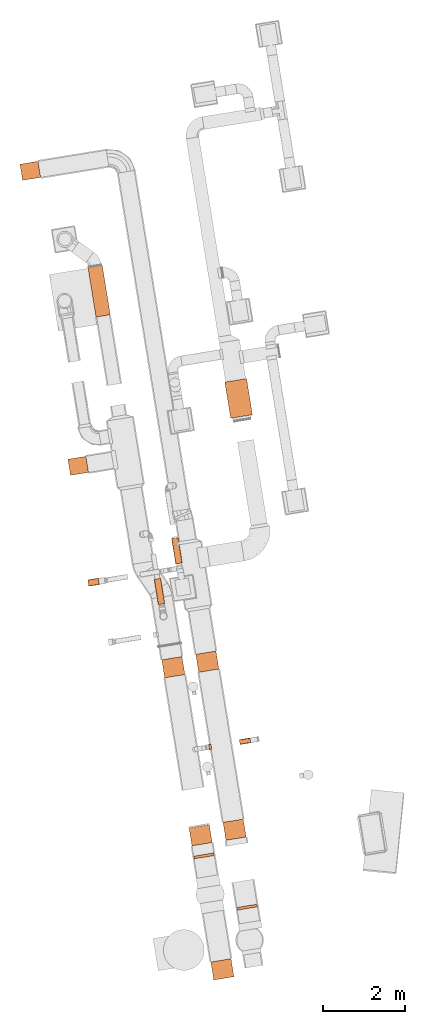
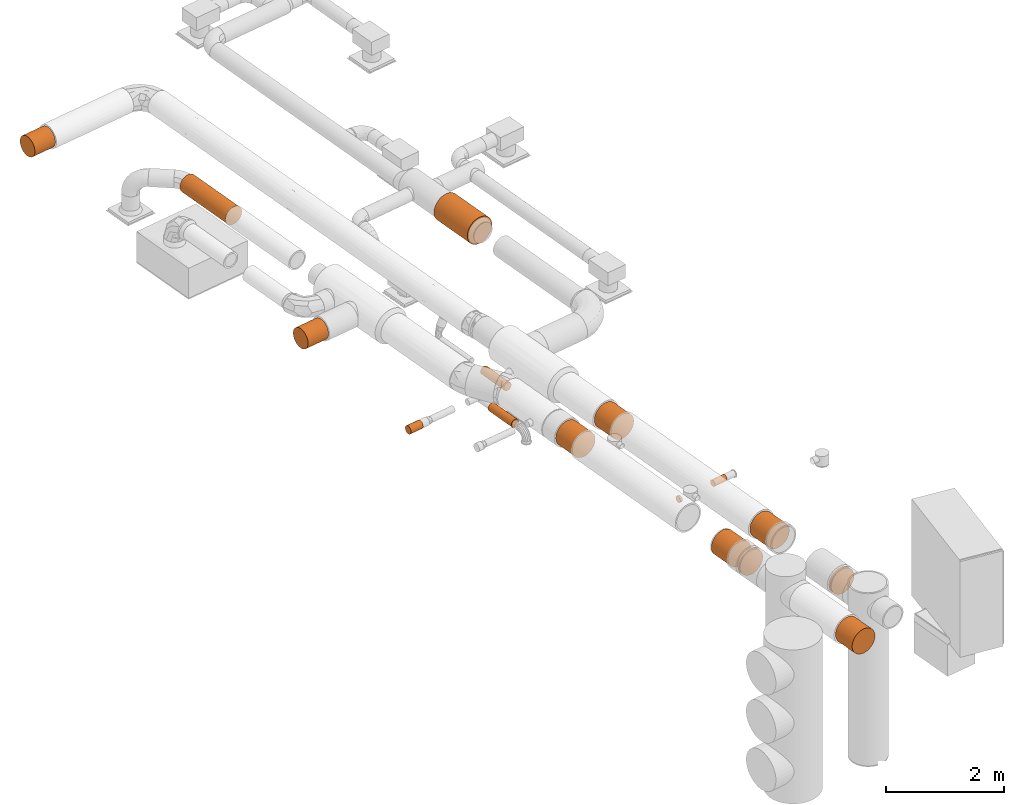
# One storey, part 39 of 39: 16 proxies.
"""IFC2X3 building model written with IfcOpenShell, lengths in millimetres."""

from ifc_helpers import new_model, entity, si_unit, converted_unit, derived_unit, direction, frame, frame_2d, origin, origin_with_axes, place, context, subcontext, project, spatial, circle, extrude, source, transform, mapped, material, type_object, element, save


model = new_model("IFC2X3")

# Units and contexts
plan_context = context("Plan", 3, precision=1e-05, world=origin_with_axes())
model_context = context("Model", 3, precision=0.01, world=origin(), true_north=direction((6.12323399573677e-17, 1.0)))
body_context = subcontext(model_context, "Body", "Model", "MODEL_VIEW")
ifc_project = project(units=[converted_unit("PLANEANGLEUNIT", "DEGREE", entity("IfcPositiveLengthMeasure", 0.0174532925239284), si_unit("PLANEANGLEUNIT", "RADIAN"), dimensions=[0, 0, 0, 0, 0, 0, 0]), si_unit("AREAUNIT", "SQUARE_METRE"), si_unit("LENGTHUNIT", "METRE", prefix="MILLI"), si_unit("MASSUNIT", "GRAM", prefix="KILO"), si_unit("POWERUNIT", "WATT"), si_unit("PRESSUREUNIT", "PASCAL", prefix="KILO"), si_unit("FORCEUNIT", "NEWTON", prefix="KILO"), si_unit("ELECTRICVOLTAGEUNIT", "VOLT"), si_unit("ELECTRICCURRENTUNIT", "AMPERE"), si_unit("THERMODYNAMICTEMPERATUREUNIT", "DEGREE_CELSIUS"), si_unit("TIMEUNIT", "SECOND"), si_unit("VOLUMEUNIT", "CUBIC_METRE"), derived_unit("LINEARVELOCITYUNIT", [(si_unit("LENGTHUNIT", "METRE"), 1), (si_unit("TIMEUNIT", "SECOND"), -1)]), derived_unit("VOLUMETRICFLOWRATEUNIT", [(si_unit("VOLUMEUNIT", "CUBIC_METRE"), 1), (si_unit("TIMEUNIT", "SECOND"), -1)]), derived_unit("THERMALTRANSMITTANCEUNIT", [(si_unit("POWERUNIT", "WATT"), 1), (si_unit("THERMODYNAMICTEMPERATUREUNIT", "KELVIN"), -1), (si_unit("AREAUNIT", "SQUARE_METRE"), -1)]), derived_unit("SOUNDPRESSUREUNIT", [(si_unit("PRESSUREUNIT", "PASCAL"), 1)])], contexts=[model_context, plan_context])

# Site, building, storey
site_placement = place(None, frame((-0.00071070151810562, 0.00438415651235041, 0.0), z_axis=(0.0, 0.0, 1.0), x_axis=(-0.160236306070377, 0.987078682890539, 0.0)))
site = spatial("IfcSite", under=ifc_project, at=site_placement, Name="Default", CompositionType="ELEMENT")
building_placement = place(site_placement, origin_with_axes())
building = spatial("IfcBuilding", under=site, at=building_placement, CompositionType="ELEMENT")
storey_placement = place(building_placement, frame((0.0, 0.0, 58999.9999999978), z_axis=(0.0, 0.0, 1.0), x_axis=(1.0, 0.0, 0.0)))
storey = spatial("IfcBuildingStorey", under=building, at=storey_placement, Name="Nivå F", CompositionType="ELEMENT", Elevation=58999.9999999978)

# Proxies
ifc_material = material(Name="<Unnamed>")
building_element_proxy_type_1 = type_object("IfcBuildingElementProxyType", Name="BRANNSPJELD -  - SZ011T:BRANNSPJELD -C-EI60-500 - SZ011T", PredefinedType="NOTDEFINED", material=ifc_material)
shared_shape_1 = source(origin(), body_context, "Body", "SweptSolid", [
    extrude(circle(Radius=250.0, at=frame_2d((1.51305301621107e-14, -4.03886143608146e-13), x_axis=(1.0, 0.0))), frame((-223.5, 0.0, 0.0), z_axis=(1.0, 0.0, 0.0), x_axis=(0.0, 1.0, 0.0)), (0.0, 0.0, 1.0), 447.0),
])
for number, where, z_axis, x_axis in (
    (1, (770765.869644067, -502496.834705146, 3130.0), (0.0, 0.0, 1.0), (-1.0, 0.0, 0.0)),
    (2, (770765.869644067, -503340.008615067, 3129.99954147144), (0.0, 0.0, 1.0), (-1.0, 0.0, 0.0)),
    (3, (763269.369644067, -502496.834705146, 3130.0), (0.0, 0.0, 1.0), (1.0, 0.0, 0.0)),
    (4, (766597.619644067, -502496.834705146, 3130.0), (0.0, 0.0, 1.0), (-1.0, 0.0, 0.0)),
    (5, (766597.619644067, -503340.008615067, 3129.99954147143), (0.0, 0.0, 1.0), (-1.0, 0.0, 0.0)),
):
    element("IfcBuildingElementProxy", number, at=place(storey_placement, frame(where, z_axis=z_axis, x_axis=x_axis)), inside=storey, type_object=building_element_proxy_type_1, material=ifc_material, Name="BRANNSPJELD -  - SZ011T:BRANNSPJELD -C-EI60-500 - SZ011T", ObjectType="BRANNSPJELD -  - SZ011T:BRANNSPJELD -C-EI60-500 - SZ011T", context=body_context, shape_type="MappedRepresentation", body=[
        mapped(shared_shape_1, transform((0.0, 0.0, 0.0), scale=1.0)),
    ])
building_element_proxy_type_2 = type_object("IfcBuildingElementProxyType", Name="INNREGULERINGSPJELD -  - SR001T:INNREGULERINGSPJELD - IRIS-050 - SR001T", PredefinedType="NOTDEFINED", material=ifc_material)
shared_shape_2 = source(origin(), body_context, "Body", "SweptSolid", [
    extrude(circle(Radius=250.0, at=frame_2d((1.47585647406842e-14, -1.18104226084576e-12), x_axis=(1.0, 0.0))), frame((-33.0, 0.0, 0.0), z_axis=(1.0, 0.0, 0.0), x_axis=(0.0, 0.0, -1.0)), (0.0, 0.0, 1.0), 65.9999999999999),
])
for number, where, z_axis, x_axis in (
    (6, (766085.090423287, -502496.834705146, 3130.0), (0.0, 0.0, 1.0), (-1.0, 0.0, 0.0)),
    (7, (764675.090423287, -503340.008615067, 3129.99954147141), (0.0, 0.0, 1.0), (-1.0, 0.0, 0.0)),
):
    element("IfcBuildingElementProxy", number, at=place(storey_placement, frame(where, z_axis=z_axis, x_axis=x_axis)), inside=storey, type_object=building_element_proxy_type_2, material=ifc_material, Name="INNREGULERINGSPJELD -  - SR001T:INNREGULERINGSPJELD - IRIS-050 - SR001T", ObjectType="INNREGULERINGSPJELD -  - SR001T:INNREGULERINGSPJELD - IRIS-050 - SR001T", context=body_context, shape_type="MappedRepresentation", body=[
        mapped(shared_shape_2, transform((0.0, 0.0, 0.0), scale=1.0)),
    ])
building_element_proxy_type_3 = type_object("IfcBuildingElementProxyType", Name="BRANNSPJELD -  - SZ011T:BRANNSPJELD -C-EI60-125 - SZ011T", PredefinedType="NOTDEFINED", material=ifc_material)
shared_shape_3 = source(origin(), body_context, "Body", "SweptSolid", [
    extrude(circle(Radius=62.4999999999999, at=frame_2d((3.44740902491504e-15, -1.00971535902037e-13), x_axis=(1.0, 0.0))), frame((-132.5, 0.0, 0.0), z_axis=(1.0, 0.0, 0.0), x_axis=(0.0, 1.0, 0.0)), (0.0, 0.0, 1.0), 265.0),
])
proxy_1_placement = place(storey_placement, frame((768695.275143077, -503939.729552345, 2750.0), z_axis=(0.0, 0.0, 1.0), x_axis=(0.0, 1.0, 0.0)))
element("IfcBuildingElementProxy", 8, at=proxy_1_placement, inside=storey, type_object=building_element_proxy_type_3, material=ifc_material, Name="BRANNSPJELD -  - SZ011T:BRANNSPJELD -C-EI60-125 - SZ011T", ObjectType="BRANNSPJELD -  - SZ011T:BRANNSPJELD -C-EI60-125 - SZ011T", context=body_context, shape_type="MappedRepresentation", body=[
    mapped(shared_shape_3, transform((0.0, 0.0, 0.0), scale=1.0)),
])
building_element_proxy_type_4 = type_object("IfcBuildingElementProxyType", Name="INNREGULERINGSPJELD -  - SR001T:INNREGULERINGSPJELD - IRIS-012 - SR001T", PredefinedType="NOTDEFINED", material=ifc_material)
shared_shape_4 = source(origin(), body_context, "Body", "SweptSolid", [
    extrude(circle(Radius=62.4999999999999, at=frame_2d((-3.04447824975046e-15, -2.81382777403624e-13), x_axis=(1.0, 0.0))), frame((-23.0, 0.0, 0.0), z_axis=(1.0, 0.0, 0.0), x_axis=(0.0, 0.0, -1.0)), (0.0, 0.0, 1.0), 46.0),
])
proxy_2_placement = place(storey_placement, frame((768695.275148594, -503073.30993598, 2750.0), z_axis=(0.0, 0.0, 1.0), x_axis=(0.0, 1.0, 0.0)))
element("IfcBuildingElementProxy", 9, at=proxy_2_placement, inside=storey, type_object=building_element_proxy_type_4, material=ifc_material, Name="INNREGULERINGSPJELD -  - SR001T:INNREGULERINGSPJELD - IRIS-012 - SR001T", ObjectType="INNREGULERINGSPJELD -  - SR001T:INNREGULERINGSPJELD - IRIS-012 - SR001T", context=body_context, shape_type="MappedRepresentation", body=[
    mapped(shared_shape_4, transform((0.0, 0.0, 0.0), scale=1.0)),
])
building_element_proxy_type_5 = type_object("IfcBuildingElementProxyType", Name="BRANNSPJELD -  - SZ011T:BRANNSPJELD -C-EI60-400 - SZ011T", PredefinedType="NOTDEFINED", material=ifc_material)
shared_shape_5 = source(origin(), body_context, "Body", "SweptSolid", [
    extrude(circle(Radius=200.0, at=frame_2d((1.51305301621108e-14, -3.23108914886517e-13), x_axis=(1.0, 0.0))), frame((-223.5, 0.0, 0.0), z_axis=(1.0, 0.0, 0.0), x_axis=(0.0, 1.0, 0.0)), (0.0, 0.0, 1.0), 447.0),
])
for number, where, z_axis, x_axis in (
    (10, (776007.222116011, -500987.136418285, 3130.0), (0.0, 0.0, 1.0), (0.0, -1.0, 0.0)),
    (11, (783327.222116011, -500987.209617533, 3130.0), (0.0, 0.0, 1.0), (0.0, -1.0, 0.0)),
):
    element("IfcBuildingElementProxy", number, at=place(storey_placement, frame(where, z_axis=z_axis, x_axis=x_axis)), inside=storey, type_object=building_element_proxy_type_5, material=ifc_material, Name="BRANNSPJELD -  - SZ011T:BRANNSPJELD -C-EI60-400 - SZ011T", ObjectType="BRANNSPJELD -  - SZ011T:BRANNSPJELD -C-EI60-400 - SZ011T", context=body_context, shape_type="MappedRepresentation", body=[
        mapped(shared_shape_5, transform((0.0, 0.0, 0.0), scale=1.0)),
    ])
building_element_proxy_type_6 = type_object("IfcBuildingElementProxyType", Name="LYDDEMPER -  - QL007T:LYDDEMPER - 315-1200 - QL007T", PredefinedType="NOTDEFINED", material=ifc_material)
shared_shape_6 = source(origin(), body_context, "Body", "SweptSolid", [
    extrude(circle(Radius=177.5, at=frame_2d((1.68751977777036e-14, -2.86759161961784e-13), x_axis=(1.0, 0.0))), frame((-613.0, 0.0, 0.0), z_axis=(1.0, 0.0, 0.0), x_axis=(0.0, 0.0, 1.0)), (0.0, 0.0, 1.0), 1226.0),
])
proxy_3_placement = place(storey_placement, frame((780147.343051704, -502178.834705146, 3130.03415297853), z_axis=(0.0, 0.0, 1.0), x_axis=(1.0, 0.0, 0.0)))
element("IfcBuildingElementProxy", 12, at=proxy_3_placement, inside=storey, type_object=building_element_proxy_type_6, material=ifc_material, Name="LYDDEMPER -  - QL007T:LYDDEMPER - 315-1200 - QL007T", ObjectType="LYDDEMPER -  - QL007T:LYDDEMPER - 315-1200 - QL007T", context=body_context, shape_type="MappedRepresentation", body=[
    mapped(shared_shape_6, transform((0.0, 0.0, 0.0), scale=1.0)),
])
building_element_proxy_type_7 = type_object("IfcBuildingElementProxyType", Name="LYDDEMPER -  - QL005T:LYDDEMPER - 125-600 - QL005T", PredefinedType="NOTDEFINED", material=ifc_material)
shared_shape_7 = source(origin(), body_context, "Body", "SweptSolid", [
    extrude(circle(Radius=82.4999999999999, at=frame_2d((2.46083896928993e-15, -1.33282427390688e-13), x_axis=(1.0, 0.0))), frame((-313.0, 0.0, 0.0), z_axis=(1.0, 0.0, 0.0), x_axis=(0.0, 0.0, 1.0)), (0.0, 0.0, 1.0), 626.0),
])
for number, where, z_axis, x_axis in (
    (13, (772651.478900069, -502458.791014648, 2610.0), (0.0, 0.0, 1.0), (1.0, 0.0, 0.0)),
    (14, (773565.199460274, -503041.029799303, 2617.0), (0.0, 0.0, 1.0), (1.0, 0.0, 0.0)),
):
    element("IfcBuildingElementProxy", number, at=place(storey_placement, frame(where, z_axis=z_axis, x_axis=x_axis)), inside=storey, type_object=building_element_proxy_type_7, material=ifc_material, Name="LYDDEMPER -  - QL005T:LYDDEMPER - 125-600 - QL005T", ObjectType="LYDDEMPER -  - QL005T:LYDDEMPER - 125-600 - QL005T", context=body_context, shape_type="MappedRepresentation", body=[
        mapped(shared_shape_7, transform((0.0, 0.0, 0.0), scale=1.0)),
    ])
building_element_proxy_type_8 = type_object("IfcBuildingElementProxyType", Name="LYDDEMPER -  - QL006T:LYDDEMPER - 500-900 - QL006T", PredefinedType="NOTDEFINED", material=ifc_material)
shared_shape_8 = source(origin(), body_context, "Body", "SweptSolid", [
    extrude(circle(Radius=270.0, at=frame_2d((-1.47404180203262e-14, -4.36197035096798e-13), x_axis=(1.0, 0.0))), frame((-448.0, 0.0, 0.0), z_axis=(1.0, 0.0, 0.0), x_axis=(0.0, 0.0, 1.0)), (0.0, 0.0, 1.0), 896.0),
])
proxy_4_placement = place(storey_placement, frame((777007.619644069, -505130.008615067, 3130.0), z_axis=(0.0, 0.0, 1.0), x_axis=(1.0, 0.0, 0.0)))
element("IfcBuildingElementProxy", 15, at=proxy_4_placement, inside=storey, type_object=building_element_proxy_type_8, material=ifc_material, Name="LYDDEMPER -  - QL006T:LYDDEMPER - 500-900 - QL006T", ObjectType="LYDDEMPER -  - QL006T:LYDDEMPER - 500-900 - QL006T", context=body_context, shape_type="MappedRepresentation", body=[
    mapped(shared_shape_8, transform((0.0, 0.0, 0.0), scale=1.0)),
])
building_element_proxy_type_9 = type_object("IfcBuildingElementProxyType", Name="BRANNSPJELD -  - SZ011T:BRANNSPJELD -C-EI60-160 - SZ011T", PredefinedType="NOTDEFINED", material=ifc_material)
shared_shape_9 = source(origin(), body_context, "Body", "SweptSolid", [
    extrude(circle(Radius=79.9999999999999, at=frame_2d((3.44740902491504e-15, -1.29243565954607e-13), x_axis=(1.0, 0.0))), frame((-132.5, 0.0, 0.0), z_axis=(1.0, 0.0, 0.0), x_axis=(0.0, 1.0, 0.0)), (0.0, 0.0, 1.0), 265.0),
])
proxy_5_placement = place(storey_placement, frame((773133.264064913, -500902.480498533, 2790.0), z_axis=(0.0, 0.0, 1.0), x_axis=(0.0, -1.0, 0.0)))
element("IfcBuildingElementProxy", 16, at=proxy_5_placement, inside=storey, type_object=building_element_proxy_type_9, material=ifc_material, Name="BRANNSPJELD -  - SZ011T:BRANNSPJELD -C-EI60-160 - SZ011T", ObjectType="BRANNSPJELD -  - SZ011T:BRANNSPJELD -C-EI60-160 - SZ011T", context=body_context, shape_type="MappedRepresentation", body=[
    mapped(shared_shape_9, transform((0.0, 0.0, 0.0), scale=1.0)),
])

save(model, "model.ifc")
